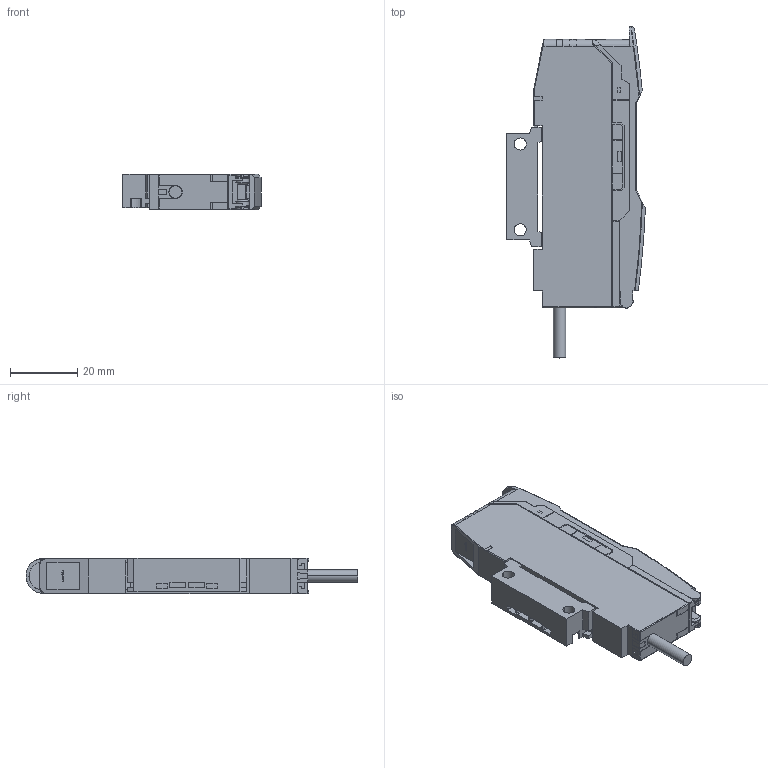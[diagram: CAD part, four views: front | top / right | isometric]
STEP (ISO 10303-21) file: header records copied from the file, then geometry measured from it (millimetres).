
FILE_DESCRIPTION((''),'2;1');
FILE_NAME('FS-G10-00','2023-05-20T09:45:51',('gz'),(''),'CREO PARAMETRIC BY PTC INC, 2020154','CREO PARAMETRIC BY PTC INC, 2020154','');
FILE_SCHEMA(('AUTOMOTIVE_DESIGN { 1 0 10303 214 1 1 1 1 }'));
Length unit declared in the file: millimetre
Products named in the file (1): FS-G10-00
Bounding box: 41.31 x 98.99 x 10.7 mm (x, y, z)
Volume: 26912.1 mm3; surface area: 11716.1 mm2
Topology: 1 solids, 5 shells, 780 faces, 2143 edges, 1388 vertices
Faces by surface type: plane 519, cylinder 166, cone 44, bspline 33, sphere 14, torus 4
Entity records: 26860 total; most frequent: CARTESIAN_POINT 7229, ORIENTED_EDGE 4278, DIRECTION 3619, EDGE_CURVE 2139, VECTOR 1587, LINE 1587, VERTEX_POINT 1388, AXIS2_PLACEMENT_3D 1016
